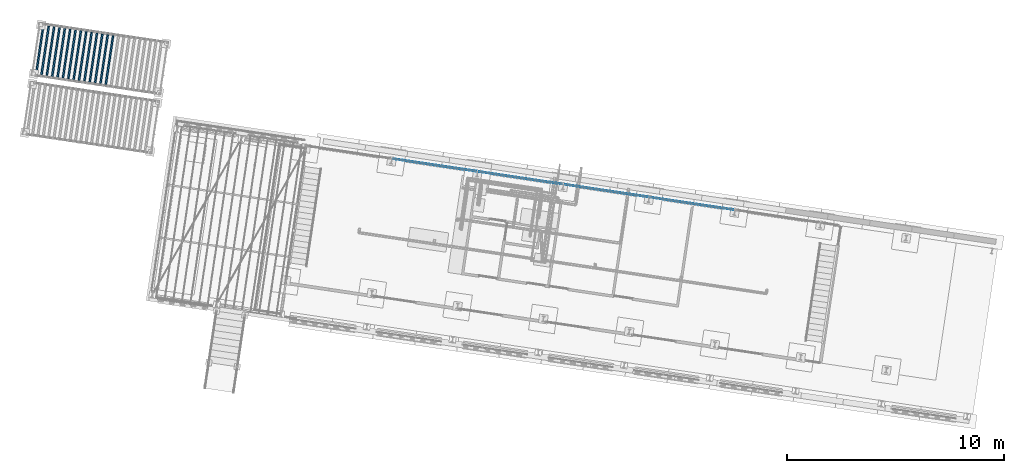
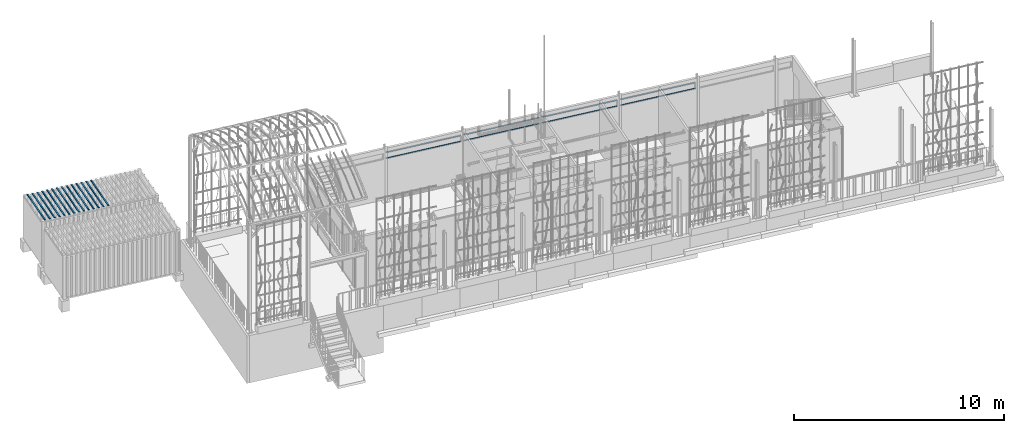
# One storey, part 81 of 142: 22 members, 1 element without a shape of its own.
"""IFC4 building model written with IfcOpenShell, lengths in metres."""

from ifc_helpers import new_model, si_unit, direction, frame, origin_with_axes, place, context, subcontext, project, spatial, polyline, rectangle, outline, extrude, material, material_profile, profile_set, profile_usage, type_object, element, aggregate, save


model = new_model("IFC4")

# Units and contexts
model_context = context("Model", 3, precision=1e-05, world=origin_with_axes(), true_north=direction((0.0, 1.0)))
body_context = subcontext(model_context, "Body", "Model", "MODEL_VIEW")
ifc_project = project(units=[si_unit("VOLUMEUNIT", "CUBIC_METRE"), si_unit("LENGTHUNIT", "METRE"), si_unit("AREAUNIT", "SQUARE_METRE")], contexts=[model_context])

# Site, building, storey
site_placement = place(None, origin_with_axes())
site = spatial("IfcSite", under=ifc_project, at=site_placement, Name="Lares · Rua das Mercês · artigo 4771")
building_placement = place(site_placement, frame((12.0, 10.2, 13.9), z_axis=(0.0, 0.0, 1.0), x_axis=(0.989015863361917, -0.147809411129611, 0.0)))
building = spatial("IfcBuilding", under=site, at=building_placement, Name="Casa Sobreposta")
storey_placement = place(building_placement, origin_with_axes())
storey = spatial("IfcBuildingStorey", under=building, at=storey_placement, Name="00 · Habitação e estacionamento", Elevation=13.9)

# Members
ifc_material_1 = material(Name="Aço pintado / Stahl lackiert", Category="steel")
ifc_material_profile = material_profile(ifc_material_1, rectangle(XDim=0.035, YDim=0.035))
ifc_profile_set = profile_set([ifc_material_profile], Name="R0.035")
ifc_profile_usage_1 = profile_usage(ifc_profile_set)
member_type = type_object("IfcMemberType", Name="R0.035 / steel", PredefinedType="NOTDEFINED", material=ifc_profile_set)
member_1_placement = place(storey_placement, frame((4.08, 6.4, 2.35), z_axis=(1.0, 0.0, 0.0), x_axis=(0.0, -1.0, 0.0)))
element("IfcMember", 1, at=member_1_placement, inside=storey, type_object=member_type, material=ifc_profile_usage_1, Name="Rasgo norte 2 · travessa", context=body_context, shape_type="SweptSolid", body=[
    extrude(rectangle(XDim=0.035, YDim=0.035), origin_with_axes(), (0.0, 0.0, 1.0), 3.84),
])
ifc_profile_usage_2 = profile_usage(ifc_profile_set)
member_2_placement = place(storey_placement, frame((4.08, 6.4, 2.7), z_axis=(1.0, 0.0, 0.0), x_axis=(0.0, -1.0, 0.0)))
element("IfcMember", 2, at=member_2_placement, inside=storey, type_object=member_type, material=ifc_profile_usage_2, Name="Rasgo norte 2 · travessa", context=body_context, shape_type="SweptSolid", body=[
    extrude(rectangle(XDim=0.035, YDim=0.035), origin_with_axes(), (0.0, 0.0, 1.0), 3.84),
])
ifc_profile_usage_3 = profile_usage(ifc_profile_set)
member_3_placement = place(storey_placement, frame((8.08, 6.4, 2.35), z_axis=(1.0, 0.0, 0.0), x_axis=(0.0, -1.0, 0.0)))
element("IfcMember", 3, at=member_3_placement, inside=storey, type_object=member_type, material=ifc_profile_usage_3, Name="Rasgo norte 3 · travessa", context=body_context, shape_type="SweptSolid", body=[
    extrude(rectangle(XDim=0.035, YDim=0.035), origin_with_axes(), (0.0, 0.0, 1.0), 3.84),
])
ifc_profile_usage_4 = profile_usage(ifc_profile_set)
member_4_placement = place(storey_placement, frame((8.08, 6.4, 2.7), z_axis=(1.0, 0.0, 0.0), x_axis=(0.0, -1.0, 0.0)))
element("IfcMember", 4, at=member_4_placement, inside=storey, type_object=member_type, material=ifc_profile_usage_4, Name="Rasgo norte 3 · travessa", context=body_context, shape_type="SweptSolid", body=[
    extrude(rectangle(XDim=0.035, YDim=0.035), origin_with_axes(), (0.0, 0.0, 1.0), 3.84),
])
ifc_profile_usage_5 = profile_usage(ifc_profile_set)
member_5_placement = place(storey_placement, frame((12.08, 6.4, 2.35), z_axis=(1.0, 0.0, 0.0), x_axis=(0.0, -1.0, 0.0)))
element("IfcMember", 5, at=member_5_placement, inside=storey, type_object=member_type, material=ifc_profile_usage_5, Name="Rasgo norte 4 · travessa", context=body_context, shape_type="SweptSolid", body=[
    extrude(rectangle(XDim=0.035, YDim=0.035), origin_with_axes(), (0.0, 0.0, 1.0), 3.84),
])
ifc_profile_usage_6 = profile_usage(ifc_profile_set)
member_6_placement = place(storey_placement, frame((12.08, 6.4, 2.7), z_axis=(1.0, 0.0, 0.0), x_axis=(0.0, -1.0, 0.0)))
element("IfcMember", 6, at=member_6_placement, inside=storey, type_object=member_type, material=ifc_profile_usage_6, Name="Rasgo norte 4 · travessa", context=body_context, shape_type="SweptSolid", body=[
    extrude(rectangle(XDim=0.035, YDim=0.035), origin_with_axes(), (0.0, 0.0, 1.0), 3.84),
])
ifc_profile_usage_7 = profile_usage(ifc_profile_set)
member_7_placement = place(storey_placement, frame((16.08, 6.4, 2.35), z_axis=(1.0, 0.0, 0.0), x_axis=(0.0, -1.0, 0.0)))
element("IfcMember", 7, at=member_7_placement, inside=storey, type_object=member_type, material=ifc_profile_usage_7, Name="Rasgo norte 5 · travessa", context=body_context, shape_type="SweptSolid", body=[
    extrude(rectangle(XDim=0.035, YDim=0.035), origin_with_axes(), (0.0, 0.0, 1.0), 3.84),
])
ifc_profile_usage_8 = profile_usage(ifc_profile_set)
member_8_placement = place(storey_placement, frame((16.08, 6.4, 2.7), z_axis=(1.0, 0.0, 0.0), x_axis=(0.0, -1.0, 0.0)))
element("IfcMember", 8, at=member_8_placement, inside=storey, type_object=member_type, material=ifc_profile_usage_8, Name="Rasgo norte 5 · travessa", context=body_context, shape_type="SweptSolid", body=[
    extrude(rectangle(XDim=0.035, YDim=0.035), origin_with_axes(), (0.0, 0.0, 1.0), 3.84),
])

# Assembly, members
assembly_placement = place(storey_placement, origin_with_axes())
assembly = element("IfcElementAssembly", 9, at=assembly_placement, inside=storey, ObjectType="EXISTING_SHIPPING_CONTAINER", PredefinedType="USERDEFINED")
ifc_material_2 = material(Name="Contentor · pintura 2", Category="steel")
member_9_placement = place(assembly_placement, frame((0.0, 0.0, 2.1551682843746), z_axis=(0.0, 0.0, 1.0), x_axis=(1.0, 0.0, 0.0)))
member_9 = element("IfcMember", 10, at=member_9_placement, material=ifc_material_2, Name="Contentor · nervura cobertura", context=body_context, shape_type="SweptSolid", body=[
    extrude(outline(polyline([(-12.77, 7.83), (-12.77, 10.11), (-12.85, 10.11), (-12.85, 7.83), (-12.77, 7.83)])), origin_with_axes(), (0.0, 0.0, 1.0), 0.018),
])
member_10_placement = place(assembly_placement, frame((0.0, 0.0, 2.1551682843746), z_axis=(0.0, 0.0, 1.0), x_axis=(1.0, 0.0, 0.0)))
member_10 = element("IfcMember", 11, at=member_10_placement, material=ifc_material_2, Name="Contentor · nervura cobertura", context=body_context, shape_type="SweptSolid", body=[
    extrude(outline(polyline([(-12.52, 7.83), (-12.52, 10.11), (-12.6, 10.11), (-12.6, 7.83), (-12.52, 7.83)])), origin_with_axes(), (0.0, 0.0, 1.0), 0.018),
])
member_11_placement = place(assembly_placement, frame((0.0, 0.0, 2.1551682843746), z_axis=(0.0, 0.0, 1.0), x_axis=(1.0, 0.0, 0.0)))
member_11 = element("IfcMember", 12, at=member_11_placement, material=ifc_material_2, Name="Contentor · nervura cobertura", context=body_context, shape_type="SweptSolid", body=[
    extrude(outline(polyline([(-12.27, 7.83), (-12.27, 10.11), (-12.35, 10.11), (-12.35, 7.83), (-12.27, 7.83)])), origin_with_axes(), (0.0, 0.0, 1.0), 0.018),
])
member_12_placement = place(assembly_placement, frame((0.0, 0.0, 2.1551682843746), z_axis=(0.0, 0.0, 1.0), x_axis=(1.0, 0.0, 0.0)))
member_12 = element("IfcMember", 13, at=member_12_placement, material=ifc_material_2, Name="Contentor · nervura cobertura", context=body_context, shape_type="SweptSolid", body=[
    extrude(outline(polyline([(-12.02, 7.83), (-12.02, 10.11), (-12.1, 10.11), (-12.1, 7.83), (-12.02, 7.83)])), origin_with_axes(), (0.0, 0.0, 1.0), 0.018),
])
member_13_placement = place(assembly_placement, frame((0.0, 0.0, 2.1551682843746), z_axis=(0.0, 0.0, 1.0), x_axis=(1.0, 0.0, 0.0)))
member_13 = element("IfcMember", 14, at=member_13_placement, material=ifc_material_2, Name="Contentor · nervura cobertura", context=body_context, shape_type="SweptSolid", body=[
    extrude(outline(polyline([(-11.77, 7.83), (-11.77, 10.11), (-11.85, 10.11), (-11.85, 7.83), (-11.77, 7.83)])), origin_with_axes(), (0.0, 0.0, 1.0), 0.018),
])
member_14_placement = place(assembly_placement, frame((0.0, 0.0, 2.1551682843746), z_axis=(0.0, 0.0, 1.0), x_axis=(1.0, 0.0, 0.0)))
member_14 = element("IfcMember", 15, at=member_14_placement, material=ifc_material_2, Name="Contentor · nervura cobertura", context=body_context, shape_type="SweptSolid", body=[
    extrude(outline(polyline([(-11.52, 7.83), (-11.52, 10.11), (-11.6, 10.11), (-11.6, 7.83), (-11.52, 7.83)])), origin_with_axes(), (0.0, 0.0, 1.0), 0.018),
])
member_15_placement = place(assembly_placement, frame((0.0, 0.0, 2.1551682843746), z_axis=(0.0, 0.0, 1.0), x_axis=(1.0, 0.0, 0.0)))
member_15 = element("IfcMember", 16, at=member_15_placement, material=ifc_material_2, Name="Contentor · nervura cobertura", context=body_context, shape_type="SweptSolid", body=[
    extrude(outline(polyline([(-11.27, 7.83), (-11.27, 10.11), (-11.35, 10.11), (-11.35, 7.83), (-11.27, 7.83)])), origin_with_axes(), (0.0, 0.0, 1.0), 0.018),
])
member_16_placement = place(assembly_placement, frame((0.0, 0.0, 2.1551682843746), z_axis=(0.0, 0.0, 1.0), x_axis=(1.0, 0.0, 0.0)))
member_16 = element("IfcMember", 17, at=member_16_placement, material=ifc_material_2, Name="Contentor · nervura cobertura", context=body_context, shape_type="SweptSolid", body=[
    extrude(outline(polyline([(-11.02, 7.83), (-11.02, 10.11), (-11.1, 10.11), (-11.1, 7.83), (-11.02, 7.83)])), origin_with_axes(), (0.0, 0.0, 1.0), 0.018),
])
member_17_placement = place(assembly_placement, frame((0.0, 0.0, 2.1551682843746), z_axis=(0.0, 0.0, 1.0), x_axis=(1.0, 0.0, 0.0)))
member_17 = element("IfcMember", 18, at=member_17_placement, material=ifc_material_2, Name="Contentor · nervura cobertura", context=body_context, shape_type="SweptSolid", body=[
    extrude(outline(polyline([(-10.77, 7.83), (-10.77, 10.11), (-10.85, 10.11), (-10.85, 7.83), (-10.77, 7.83)])), origin_with_axes(), (0.0, 0.0, 1.0), 0.018),
])
member_18_placement = place(assembly_placement, frame((0.0, 0.0, 2.1551682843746), z_axis=(0.0, 0.0, 1.0), x_axis=(1.0, 0.0, 0.0)))
member_18 = element("IfcMember", 19, at=member_18_placement, material=ifc_material_2, Name="Contentor · nervura cobertura", context=body_context, shape_type="SweptSolid", body=[
    extrude(outline(polyline([(-10.52, 7.83), (-10.52, 10.11), (-10.6, 10.11), (-10.6, 7.83), (-10.52, 7.83)])), origin_with_axes(), (0.0, 0.0, 1.0), 0.018),
])
member_19_placement = place(assembly_placement, frame((0.0, 0.0, 2.1551682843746), z_axis=(0.0, 0.0, 1.0), x_axis=(1.0, 0.0, 0.0)))
member_19 = element("IfcMember", 20, at=member_19_placement, material=ifc_material_2, Name="Contentor · nervura cobertura", context=body_context, shape_type="SweptSolid", body=[
    extrude(outline(polyline([(-10.27, 7.83), (-10.27, 10.11), (-10.35, 10.11), (-10.35, 7.83), (-10.27, 7.83)])), origin_with_axes(), (0.0, 0.0, 1.0), 0.018),
])
member_20_placement = place(assembly_placement, frame((0.0, 0.0, 2.1551682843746), z_axis=(0.0, 0.0, 1.0), x_axis=(1.0, 0.0, 0.0)))
member_20 = element("IfcMember", 21, at=member_20_placement, material=ifc_material_2, Name="Contentor · nervura cobertura", context=body_context, shape_type="SweptSolid", body=[
    extrude(outline(polyline([(-10.02, 7.83), (-10.02, 10.11), (-10.1, 10.11), (-10.1, 7.83), (-10.02, 7.83)])), origin_with_axes(), (0.0, 0.0, 1.0), 0.018),
])
member_21_placement = place(assembly_placement, frame((0.0, 0.0, 2.1551682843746), z_axis=(0.0, 0.0, 1.0), x_axis=(1.0, 0.0, 0.0)))
member_21 = element("IfcMember", 22, at=member_21_placement, material=ifc_material_2, Name="Contentor · nervura cobertura", context=body_context, shape_type="SweptSolid", body=[
    extrude(outline(polyline([(-9.77, 7.83), (-9.77, 10.11), (-9.85, 10.11), (-9.85, 7.83), (-9.77, 7.83)])), origin_with_axes(), (0.0, 0.0, 1.0), 0.018),
])
member_22_placement = place(assembly_placement, frame((0.0, 0.0, 2.1551682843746), z_axis=(0.0, 0.0, 1.0), x_axis=(1.0, 0.0, 0.0)))
member_22 = element("IfcMember", 23, at=member_22_placement, material=ifc_material_2, Name="Contentor · nervura cobertura", context=body_context, shape_type="SweptSolid", body=[
    extrude(outline(polyline([(-9.52, 7.83), (-9.52, 10.11), (-9.6, 10.11), (-9.6, 7.83), (-9.52, 7.83)])), origin_with_axes(), (0.0, 0.0, 1.0), 0.018),
])
aggregate(assembly, [member_9, member_10, member_11, member_12, member_13, member_14, member_15, member_16, member_17, member_18, member_19, member_20, member_21, member_22])

save(model, "model.ifc")
